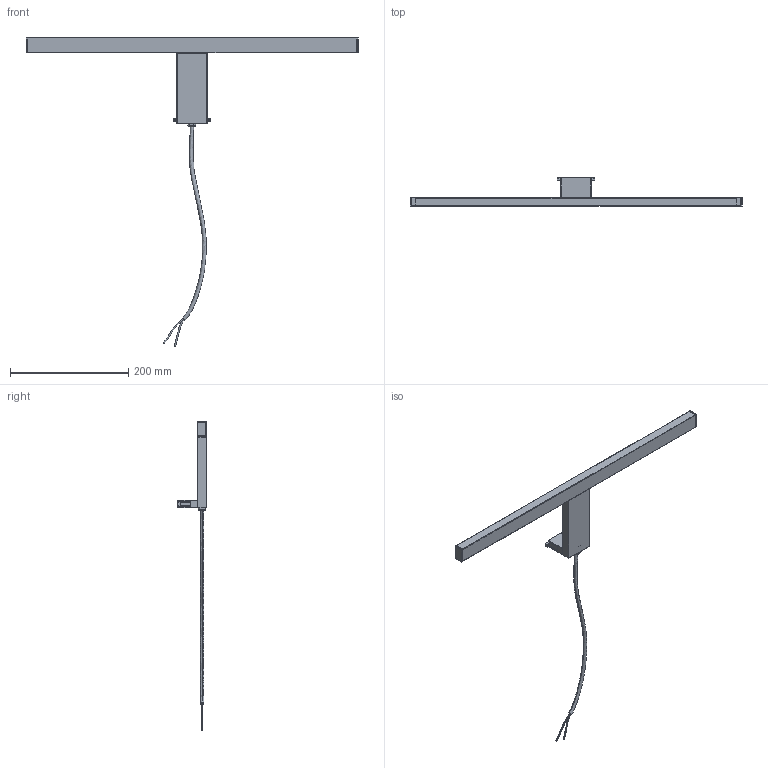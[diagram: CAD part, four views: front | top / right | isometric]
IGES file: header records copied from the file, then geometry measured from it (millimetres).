
Start section: SolidWorks IGES file using analytic representation for surfaces
Global section: file name: D:\Nowodworski\Modele 3D\Lampy\MIRROR LED 9340\Z³o¿enie MIRROR LED 9340 DLA aSI.IGS; native system: SolidWorks 2017; preprocessor: SolidWorks 2017; author: DELL; date: 190703.130935; units: millimetre
Bounding box: 562 x 49 x 522.44 mm (x, y, z)
Surface area: 127456.2 mm2 (no closed solid volume)
Topology: 0 solids, 0 shells, 409 faces, 3125 edges, 3077 vertices
Faces by surface type: revolution 227, bspline 182
